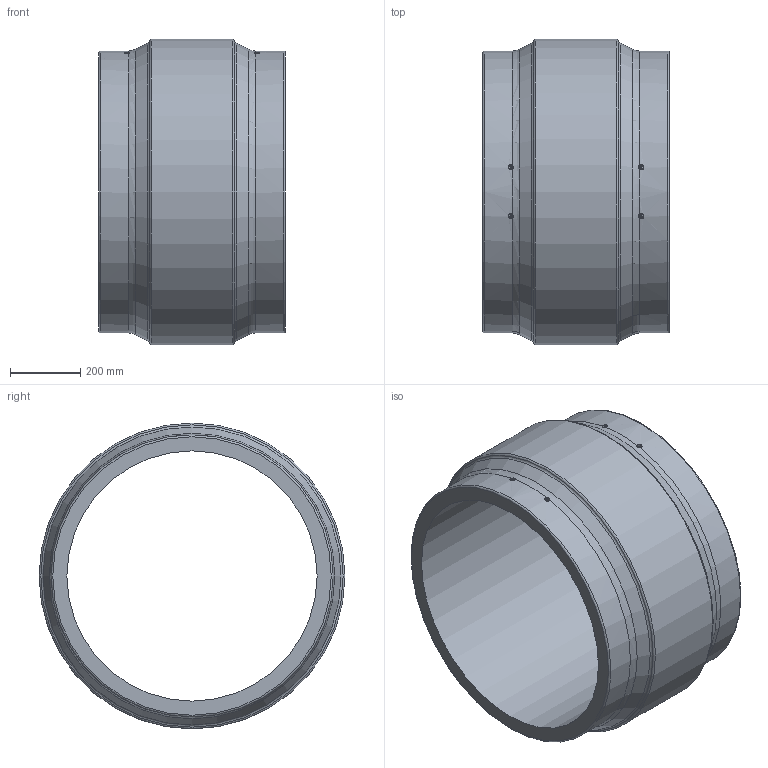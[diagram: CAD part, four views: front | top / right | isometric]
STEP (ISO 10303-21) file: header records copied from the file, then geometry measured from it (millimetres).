
FILE_DESCRIPTION(/* description */ ('Unknown'),/* implementation_level */ '2;1');
FILE_NAME(/* name */ 'MP710C',/* time_stamp */ '2021-06-01T17:09:42+02:00',/* author */ ('Unknown'),/* organization */ ('Unknown'),/* preprocessor_version */ 'ST-DEVELOPER v16.7',/* originating_system */ 'Solid Edge',/* authorisation */ 'Unknown');
FILE_SCHEMA (('AUTOMOTIVE_DESIGN {1 0 10303 214 3 1 1}'));
Length unit declared in the file: millimetre
Products named in the file (1): MP710C
Bounding box: 530 x 868 x 868 mm (x, y, z)
Volume: 81170082.3 mm3; surface area: 2837122.7 mm2
Topology: 1 solids, 1 shells, 40 faces, 82 edges, 48 vertices
Faces by surface type: cylinder 12, plane 10, torus 8, bspline 8, cone 2
Full cylindrical faces by diameter (mm): 4 x4, 13 x4, 710 x1, 800 x2, 868 x1
Entity records: 1438 total; most frequent: CARTESIAN_POINT 741, DIRECTION 126, ORIENTED_EDGE 108, EDGE_LOOP 68, FACE_BOUND 68, AXIS2_PLACEMENT_3D 63, EDGE_CURVE 54, VERTEX_POINT 42
